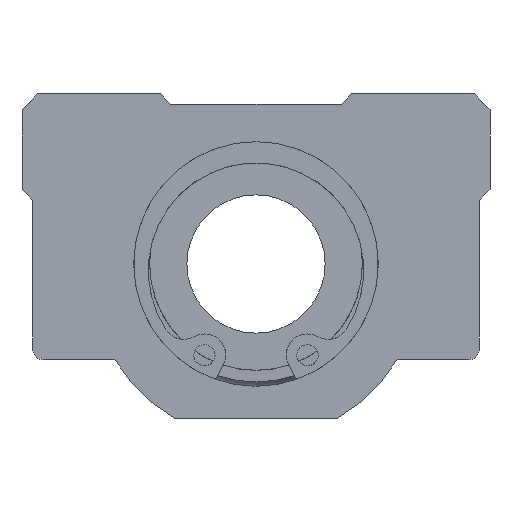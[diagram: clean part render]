
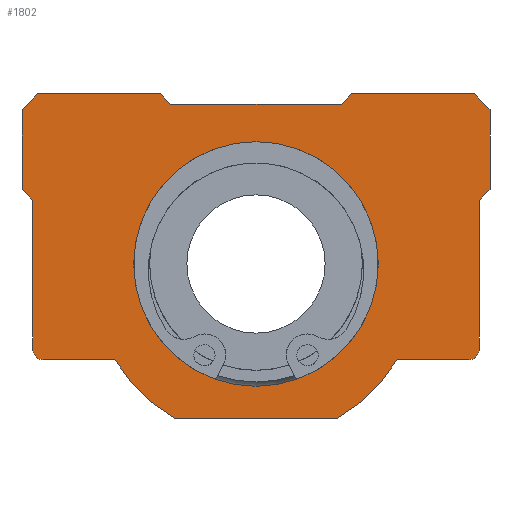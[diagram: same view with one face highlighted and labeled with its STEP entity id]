
A CAD part, left-side view. The second image highlights one B-rep face of the part: STEP entity #1802.
In plain terms, the highlighted planar face has unit normal (-1, 0, 0).
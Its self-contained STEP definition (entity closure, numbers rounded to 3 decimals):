
#1370=CARTESIAN_POINT('',(0.0,20.,-9.));
#1371=VERTEX_POINT('',#1370);
#1378=CARTESIAN_POINT('',(0.0,21.,-8.));
#1379=VERTEX_POINT('',#1378);
#1380=CARTESIAN_POINT('',(0.0,20.,-8.));
#1381=DIRECTION('',(1.0,0.0,0.0));
#1382=DIRECTION('',(0.0,0.707,-0.707));
#1383=AXIS2_PLACEMENT_3D('',#1380,#1381,#1382);
#1384=CIRCLE('',#1383,1.);
#1385=EDGE_CURVE('',#1371,#1379,#1384,.T.);
#1410=CARTESIAN_POINT('',(0.0,13.276,-9.));
#1411=VERTEX_POINT('',#1410);
#1418=CARTESIAN_POINT('',(0.0,13.276,-9.));
#1419=DIRECTION('',(0.0,1.0,0.0));
#1420=VECTOR('',#1419,6.724);
#1421=LINE('',#1418,#1420);
#1422=EDGE_CURVE('',#1411,#1371,#1421,.T.);
#1621=CARTESIAN_POINT('',(0.0,-21.,-8.));
#1622=VERTEX_POINT('',#1621);
#1629=CARTESIAN_POINT('',(0.0,-20.,-9.));
#1630=VERTEX_POINT('',#1629);
#1631=CARTESIAN_POINT('',(0.0,-20.,-8.));
#1632=DIRECTION('',(1.0,0.0,0.0));
#1633=DIRECTION('',(0.0,-0.707,-0.707));
#1634=AXIS2_PLACEMENT_3D('',#1631,#1632,#1633);
#1635=CIRCLE('',#1634,1.);
#1636=EDGE_CURVE('',#1622,#1630,#1635,.T.);
#1647=CARTESIAN_POINT('',(0.0,0.,1.899));
#1648=DIRECTION('',(1.0,0.0,0.0));
#1649=DIRECTION('',(0.0,0.0,-1.0));
#1650=AXIS2_PLACEMENT_3D('',#1647,#1648,#1649);
#1651=PLANE('',#1650);
#1652=ORIENTED_EDGE('',*,*,#1385,.F.);
#1653=ORIENTED_EDGE('',*,*,#1422,.F.);
#1654=CARTESIAN_POINT('',(0.0,7.616,-14.5));
#1655=VERTEX_POINT('',#1654);
#1656=CARTESIAN_POINT('',(0.0,0.0,-1.0));
#1657=DIRECTION('',(1.,0.0,0.0));
#1658=DIRECTION('',(0.0,0.491,-0.871));
#1659=AXIS2_PLACEMENT_3D('',#1656,#1657,#1658);
#1660=CIRCLE('',#1659,15.5);
#1661=EDGE_CURVE('',#1655,#1411,#1660,.T.);
#1662=ORIENTED_EDGE('',*,*,#1661,.F.);
#1663=CARTESIAN_POINT('',(0.0,-7.616,-14.5));
#1664=VERTEX_POINT('',#1663);
#1665=CARTESIAN_POINT('',(0.0,-7.616,-14.5));
#1666=DIRECTION('',(0.0,1.0,0.0));
#1667=VECTOR('',#1666,15.232);
#1668=LINE('',#1665,#1667);
#1669=EDGE_CURVE('',#1664,#1655,#1668,.T.);
#1670=ORIENTED_EDGE('',*,*,#1669,.F.);
#1671=CARTESIAN_POINT('',(0.0,-13.276,-9.));
#1672=VERTEX_POINT('',#1671);
#1673=CARTESIAN_POINT('',(0.0,0.0,-1.0));
#1674=DIRECTION('',(1.,0.0,0.0));
#1675=DIRECTION('',(0.0,0.491,-0.871));
#1676=AXIS2_PLACEMENT_3D('',#1673,#1674,#1675);
#1677=CIRCLE('',#1676,15.5);
#1678=EDGE_CURVE('',#1672,#1664,#1677,.T.);
#1679=ORIENTED_EDGE('',*,*,#1678,.F.);
#1680=CARTESIAN_POINT('',(0.0,-20.,-9.));
#1681=DIRECTION('',(0.0,1.0,0.0));
#1682=VECTOR('',#1681,6.724);
#1683=LINE('',#1680,#1682);
#1684=EDGE_CURVE('',#1630,#1672,#1683,.T.);
#1685=ORIENTED_EDGE('',*,*,#1684,.F.);
#1686=ORIENTED_EDGE('',*,*,#1636,.F.);
#1687=CARTESIAN_POINT('',(0.0,-21.,6.));
#1688=VERTEX_POINT('',#1687);
#1689=CARTESIAN_POINT('',(0.0,-21.,6.));
#1690=DIRECTION('',(0.0,0.0,-1.0));
#1691=VECTOR('',#1690,14.);
#1692=LINE('',#1689,#1691);
#1693=EDGE_CURVE('',#1688,#1622,#1692,.T.);
#1694=ORIENTED_EDGE('',*,*,#1693,.F.);
#1695=CARTESIAN_POINT('',(0.0,-22.0,7.));
#1696=VERTEX_POINT('',#1695);
#1697=CARTESIAN_POINT('',(0.0,-22.0,7.));
#1698=DIRECTION('',(0.0,0.707,-0.707));
#1699=VECTOR('',#1698,1.414);
#1700=LINE('',#1697,#1699);
#1701=EDGE_CURVE('',#1696,#1688,#1700,.T.);
#1702=ORIENTED_EDGE('',*,*,#1701,.F.);
#1703=CARTESIAN_POINT('',(0.0,-22.0,14.5));
#1704=VERTEX_POINT('',#1703);
#1705=CARTESIAN_POINT('',(0.0,-22.0,14.5));
#1706=DIRECTION('',(0.0,0.0,-1.0));
#1707=VECTOR('',#1706,7.5);
#1708=LINE('',#1705,#1707);
#1709=EDGE_CURVE('',#1704,#1696,#1708,.T.);
#1710=ORIENTED_EDGE('',*,*,#1709,.F.);
#1711=CARTESIAN_POINT('',(0.0,-20.5,16.));
#1712=VERTEX_POINT('',#1711);
#1713=CARTESIAN_POINT('',(0.0,-20.5,16.));
#1714=DIRECTION('',(0.0,-0.707,-0.707));
#1715=VECTOR('',#1714,2.121);
#1716=LINE('',#1713,#1715);
#1717=EDGE_CURVE('',#1712,#1704,#1716,.T.);
#1718=ORIENTED_EDGE('',*,*,#1717,.F.);
#1719=CARTESIAN_POINT('',(0.0,-9.0,16.));
#1720=VERTEX_POINT('',#1719);
#1721=CARTESIAN_POINT('',(0.0,-9.0,16.));
#1722=DIRECTION('',(0.0,-1.0,0.0));
#1723=VECTOR('',#1722,11.5);
#1724=LINE('',#1721,#1723);
#1725=EDGE_CURVE('',#1720,#1712,#1724,.T.);
#1726=ORIENTED_EDGE('',*,*,#1725,.F.);
#1727=CARTESIAN_POINT('',(0.0,-8.,15.));
#1728=VERTEX_POINT('',#1727);
#1729=CARTESIAN_POINT('',(0.0,-8.,15.));
#1730=DIRECTION('',(0.0,-0.707,0.707));
#1731=VECTOR('',#1730,1.414);
#1732=LINE('',#1729,#1731);
#1733=EDGE_CURVE('',#1728,#1720,#1732,.T.);
#1734=ORIENTED_EDGE('',*,*,#1733,.F.);
#1735=CARTESIAN_POINT('',(0.0,8.0,15.));
#1736=VERTEX_POINT('',#1735);
#1737=CARTESIAN_POINT('',(0.0,8.0,15.));
#1738=DIRECTION('',(0.0,-1.0,0.0));
#1739=VECTOR('',#1738,16.);
#1740=LINE('',#1737,#1739);
#1741=EDGE_CURVE('',#1736,#1728,#1740,.T.);
#1742=ORIENTED_EDGE('',*,*,#1741,.F.);
#1743=CARTESIAN_POINT('',(0.0,9.0,16.));
#1744=VERTEX_POINT('',#1743);
#1745=CARTESIAN_POINT('',(0.0,9.0,16.));
#1746=DIRECTION('',(0.0,-0.707,-0.707));
#1747=VECTOR('',#1746,1.414);
#1748=LINE('',#1745,#1747);
#1749=EDGE_CURVE('',#1744,#1736,#1748,.T.);
#1750=ORIENTED_EDGE('',*,*,#1749,.F.);
#1751=CARTESIAN_POINT('',(0.0,20.5,16.));
#1752=VERTEX_POINT('',#1751);
#1753=CARTESIAN_POINT('',(0.0,20.5,16.));
#1754=DIRECTION('',(0.0,-1.0,0.0));
#1755=VECTOR('',#1754,11.5);
#1756=LINE('',#1753,#1755);
#1757=EDGE_CURVE('',#1752,#1744,#1756,.T.);
#1758=ORIENTED_EDGE('',*,*,#1757,.F.);
#1759=CARTESIAN_POINT('',(0.0,22.0,14.5));
#1760=VERTEX_POINT('',#1759);
#1761=CARTESIAN_POINT('',(0.0,22.0,14.5));
#1762=DIRECTION('',(0.0,-0.707,0.707));
#1763=VECTOR('',#1762,2.121);
#1764=LINE('',#1761,#1763);
#1765=EDGE_CURVE('',#1760,#1752,#1764,.T.);
#1766=ORIENTED_EDGE('',*,*,#1765,.F.);
#1767=CARTESIAN_POINT('',(0.0,22.0,7.));
#1768=VERTEX_POINT('',#1767);
#1769=CARTESIAN_POINT('',(0.0,22.0,7.));
#1770=DIRECTION('',(0.0,0.0,1.0));
#1771=VECTOR('',#1770,7.5);
#1772=LINE('',#1769,#1771);
#1773=EDGE_CURVE('',#1768,#1760,#1772,.T.);
#1774=ORIENTED_EDGE('',*,*,#1773,.F.);
#1775=CARTESIAN_POINT('',(0.0,21.,6.));
#1776=VERTEX_POINT('',#1775);
#1777=CARTESIAN_POINT('',(0.0,21.,6.));
#1778=DIRECTION('',(0.0,0.707,0.707));
#1779=VECTOR('',#1778,1.414);
#1780=LINE('',#1777,#1779);
#1781=EDGE_CURVE('',#1776,#1768,#1780,.T.);
#1782=ORIENTED_EDGE('',*,*,#1781,.F.);
#1783=CARTESIAN_POINT('',(0.0,21.,-8.));
#1784=DIRECTION('',(0.0,0.0,1.0));
#1785=VECTOR('',#1784,14.);
#1786=LINE('',#1783,#1785);
#1787=EDGE_CURVE('',#1379,#1776,#1786,.T.);
#1788=ORIENTED_EDGE('',*,*,#1787,.F.);
#1789=EDGE_LOOP('',(#1652,#1653,#1662,#1670,#1679,#1685,#1686,#1694,#1702,#1710,#1718,#1726,#1734,#1742,#1750,#1758,#1766,#1774,#1782,#1788));
#1790=FACE_OUTER_BOUND('',#1789,.T.);
#1791=CARTESIAN_POINT('',(0.0,11.5,0.));
#1792=VERTEX_POINT('',#1791);
#1793=CARTESIAN_POINT('',(0.0,0.0,0.0));
#1794=DIRECTION('',(1.0,0.0,0.0));
#1795=DIRECTION('',(0.0,-1.0,0.0));
#1796=AXIS2_PLACEMENT_3D('',#1793,#1794,#1795);
#1797=CIRCLE('',#1796,11.5);
#1798=EDGE_CURVE('',#1792,#1792,#1797,.T.);
#1799=ORIENTED_EDGE('',*,*,#1798,.T.);
#1800=EDGE_LOOP('',(#1799));
#1801=FACE_BOUND('',#1800,.T.);
#1802=ADVANCED_FACE('',(#1790,#1801),#1651,.F.);
